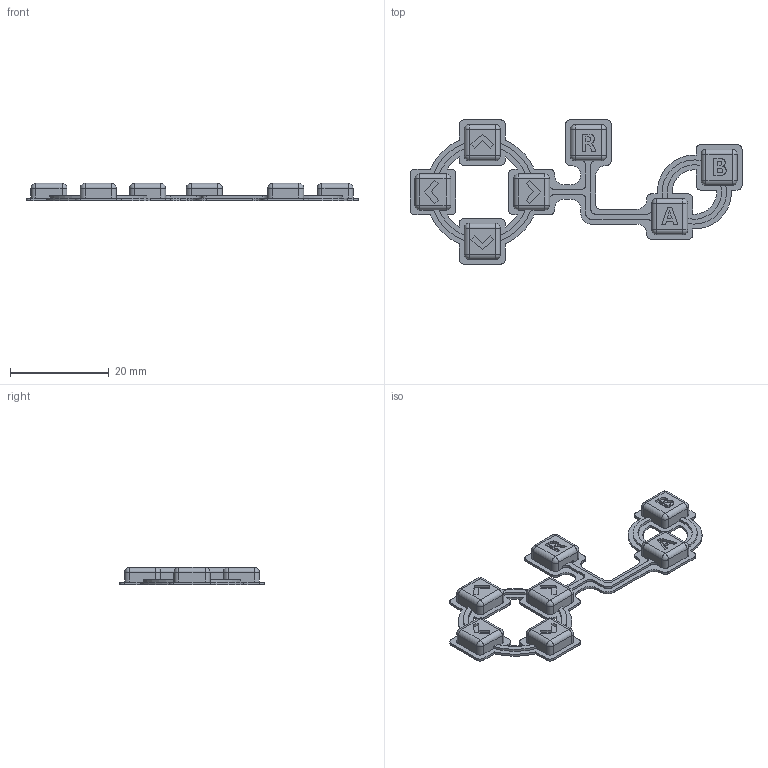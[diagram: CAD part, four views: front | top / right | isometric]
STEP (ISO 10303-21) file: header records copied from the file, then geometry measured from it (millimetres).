
FILE_DESCRIPTION (( 'STEP AP214' ), '1' );
FILE_NAME ('Êëàâèøè.STEP', '2026-03-27T10:24:16', ( '' ), ( '' ), 'SwSTEP 2.0', 'SolidWorks 2025', '' );
FILE_SCHEMA (( 'AUTOMOTIVE_DESIGN' ));
Length unit declared in the file: millimetre
Products named in the file (1): Клавиши
Bounding box: 67.3 x 29.3 x 3.5 mm (x, y, z)
Volume: 1344.7 mm3; surface area: 2584.2 mm2
Topology: 1 solids, 1 shells, 375 faces, 1006 edges, 624 vertices
Faces by surface type: plane 171, cylinder 146, bspline 30, sphere 28
Entity records: 15944 total; most frequent: CARTESIAN_POINT 3512, ORIENTED_EDGE 1956, DIRECTION 1902, EDGE_CURVE 978, AXIS2_PLACEMENT_3D 638, VECTOR 626, LINE 626, VERTEX_POINT 624
